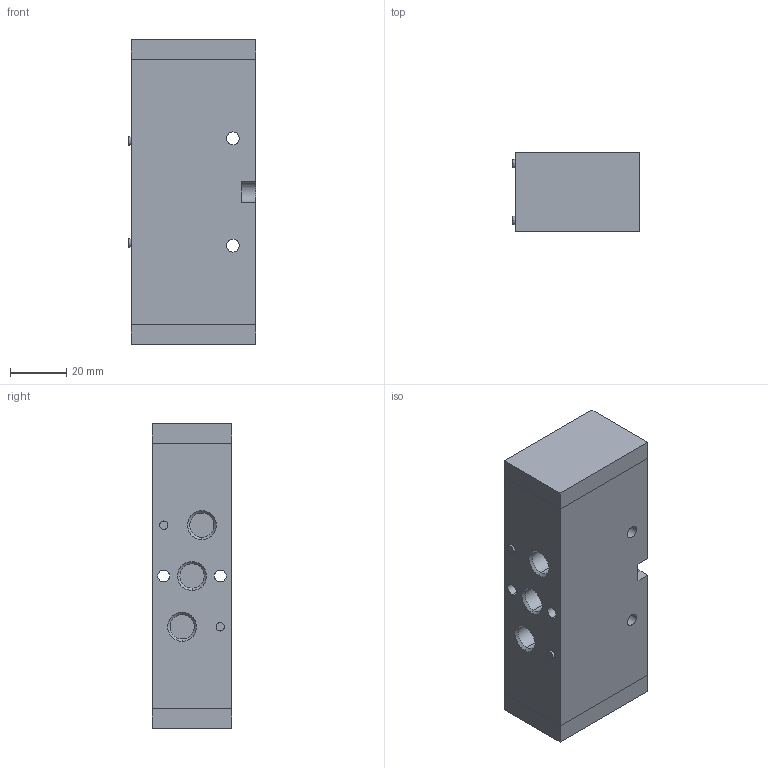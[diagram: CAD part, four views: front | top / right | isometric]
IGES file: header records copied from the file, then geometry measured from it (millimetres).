
Global section: file name: No Iges File Name specified; native system: AutoDesk Inventor R11.0; preprocessor: AutoDesk Inventor Iges Exporter R11.0; author: No Author specified; organization: No Organization specified; date: 20061201.120844; units: millimetre
Bounding box: 45 x 28 x 108 mm (x, y, z)
Volume: 127308.4 mm3; surface area: 21280.6 mm2
Topology: 1 solids, 1 shells, 73 faces, 166 edges, 106 vertices
Faces by surface type: bspline 39, plane 24, revolution 6, cylinder 4
